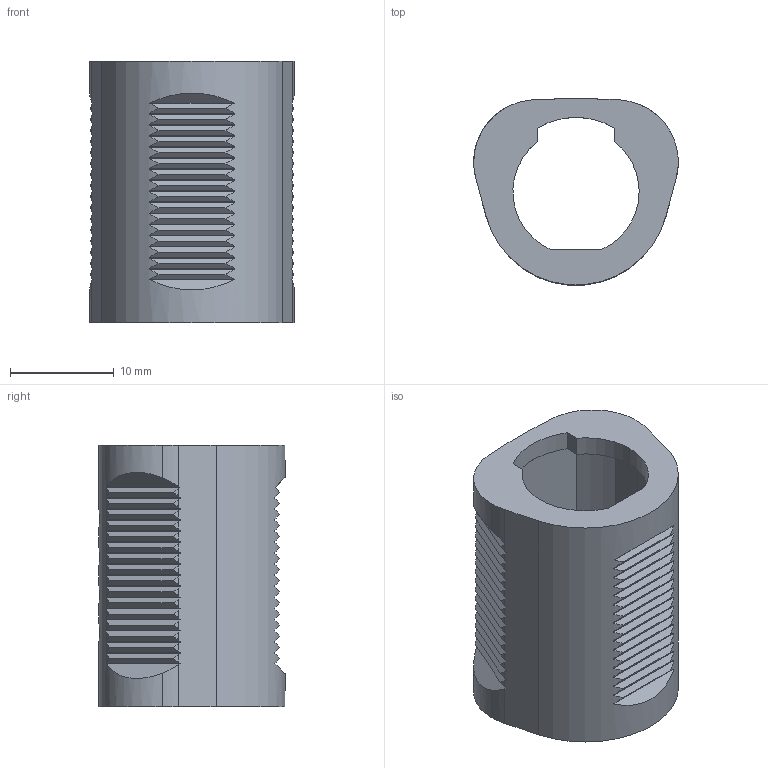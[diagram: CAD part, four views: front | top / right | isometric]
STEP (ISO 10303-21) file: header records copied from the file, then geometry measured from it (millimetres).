
FILE_DESCRIPTION(('HOOPS Exchange Step'),'2;1');
FILE_NAME('C:\Users\Moreman\Desktop\РЕЗИНКА ДЛЯ ПАЯЛЬНИКА.STP','2025-11-18T15:28:13+04:00',('Moreman'),('None'),'HOOPS Exchange 2021.0','SOLIDWORKS MBD','None');
FILE_SCHEMA( ('AP242_MANAGED_MODEL_BASED_3D_ENGINEERING_MIM_LF {1 0 10303 442 1 1 4 }') );
Length unit declared in the file: millimetre
Products named in the file (1): По умолчанию
Bounding box: 19.75 x 18 x 25.3 mm (x, y, z)
Volume: 2008.6 mm3; surface area: 3264.8 mm2
Topology: 1 solids, 1 shells, 300 faces, 818 edges, 533 vertices
Faces by surface type: plane 205, cylinder 87, cone 8
Entity records: 9709 total; most frequent: CARTESIAN_POINT 1889, DIRECTION 1673, ORIENTED_EDGE 1622, EDGE_CURVE 811, AXIS2_PLACEMENT_3D 565, VECTOR 543, LINE 543, VERTEX_POINT 520
